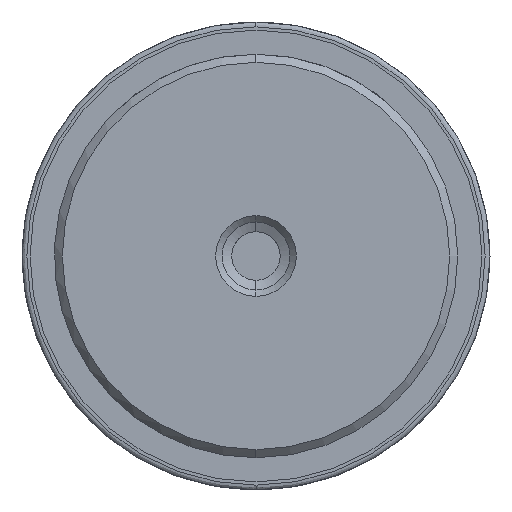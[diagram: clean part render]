
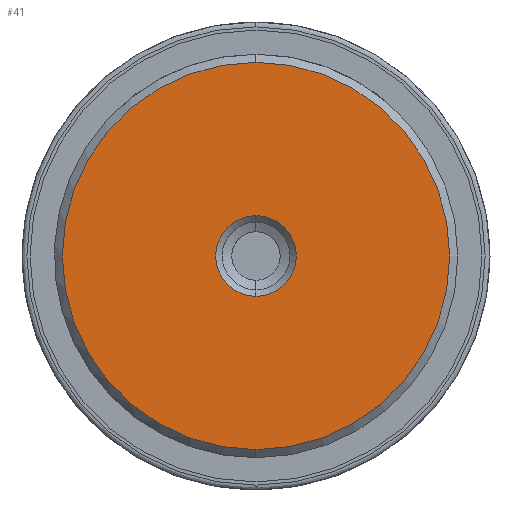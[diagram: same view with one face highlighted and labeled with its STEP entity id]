
A CAD part, left-side view. The second image highlights one B-rep face of the part: STEP entity #41.
In plain terms, the highlighted planar face has unit normal (-1, 0, 0).
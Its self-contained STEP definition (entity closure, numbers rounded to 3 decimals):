
#41=ADVANCED_FACE('',(#99,#100),#98,.T.);
#98=PLANE('',#584);
#99=FACE_OUTER_BOUND('',#585,.T.);
#100=FACE_BOUND('',#586,.T.);
#581=CARTESIAN_POINT('',(-31.,-24.942,-27.6));
#582=DIRECTION('',(-1.,0.,0.));
#583=DIRECTION('',(0.,0.,1.));
#584=AXIS2_PLACEMENT_3D('',#581,#582,#583);
#585=EDGE_LOOP('',(#1054,#1055));
#586=EDGE_LOOP('',(#1056,#1057));
#1054=ORIENTED_EDGE('',*,*,#1264,.T.);
#1055=ORIENTED_EDGE('',*,*,#1265,.T.);
#1056=ORIENTED_EDGE('',*,*,#1266,.F.);
#1057=ORIENTED_EDGE('',*,*,#1267,.F.);
#1264=EDGE_CURVE('',#1381,#1382,#1383,.T.);
#1265=EDGE_CURVE('',#1382,#1381,#1389,.T.);
#1266=EDGE_CURVE('',#1395,#1396,#1397,.T.);
#1267=EDGE_CURVE('',#1396,#1395,#1403,.T.);
#1381=VERTEX_POINT('',#2072);
#1382=VERTEX_POINT('',#2073);
#1383=CIRCLE('',#2077,12.);
#1389=CIRCLE('',#2081,12.);
#1395=VERTEX_POINT('',#2082);
#1396=VERTEX_POINT('',#2083);
#1397=CIRCLE('',#2087,2.5);
#1403=CIRCLE('',#2091,2.5);
#2072=CARTESIAN_POINT('',(-31.,0.,12.));
#2073=CARTESIAN_POINT('',(-31.,0.,-12.));
#2074=CARTESIAN_POINT('',(-31.,0.,0.));
#2075=DIRECTION('',(-1.,0.,0.));
#2076=DIRECTION('',(0.,0.,1.));
#2077=AXIS2_PLACEMENT_3D('',#2074,#2075,#2076);
#2078=CARTESIAN_POINT('',(-31.,0.,0.));
#2079=DIRECTION('',(-1.,0.,0.));
#2080=DIRECTION('',(0.,0.,1.));
#2081=AXIS2_PLACEMENT_3D('',#2078,#2079,#2080);
#2082=CARTESIAN_POINT('',(-31.,0.,-2.5));
#2083=CARTESIAN_POINT('',(-31.,0.,2.5));
#2084=CARTESIAN_POINT('',(-31.,0.,0.));
#2085=DIRECTION('',(-1.,0.,0.));
#2086=DIRECTION('',(0.,0.,1.));
#2087=AXIS2_PLACEMENT_3D('',#2084,#2085,#2086);
#2088=CARTESIAN_POINT('',(-31.,0.,0.));
#2089=DIRECTION('',(-1.,0.,0.));
#2090=DIRECTION('',(0.,0.,1.));
#2091=AXIS2_PLACEMENT_3D('',#2088,#2089,#2090);
